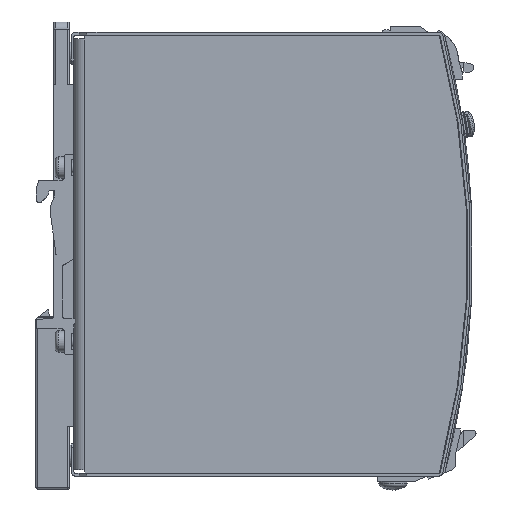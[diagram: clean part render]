
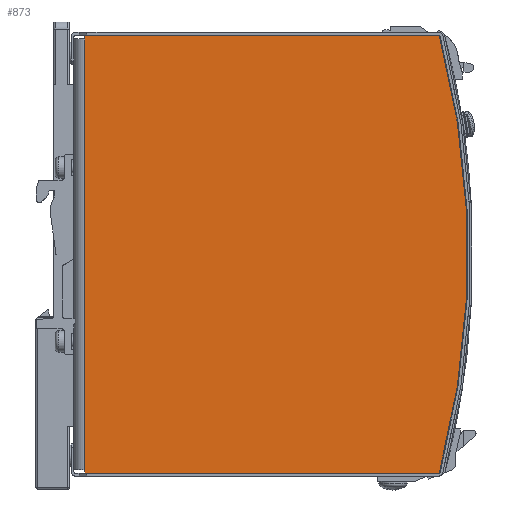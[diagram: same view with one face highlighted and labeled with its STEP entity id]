
A CAD part, front view. The second image highlights one B-rep face of the part: STEP entity #873.
In plain terms, the highlighted planar face has unit normal (0, -1, 0).
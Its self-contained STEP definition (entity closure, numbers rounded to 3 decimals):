
#303=CARTESIAN_POINT('',(102.079,-30.0,61.15));
#304=VERTEX_POINT('',#303);
#311=CARTESIAN_POINT('',(102.079,-30.0,-61.15));
#312=VERTEX_POINT('',#311);
#313=CARTESIAN_POINT('',(-130.0,-30.0,0.0));
#314=DIRECTION('',(0.0,-1.,0.0));
#315=DIRECTION('',(-0.967,0.0,0.255));
#316=AXIS2_PLACEMENT_3D('',#313,#314,#315);
#317=CIRCLE('',#316,240.);
#318=EDGE_CURVE('',#312,#304,#317,.T.);
#378=CARTESIAN_POINT('',(3.,-30.0,-60.15));
#379=VERTEX_POINT('',#378);
#491=CARTESIAN_POINT('',(3.,-30.0,-61.15));
#492=VERTEX_POINT('',#491);
#499=CARTESIAN_POINT('',(3.,-30.0,-61.15));
#500=DIRECTION('',(0.0,0.0,1.0));
#501=VECTOR('',#500,1.0);
#502=LINE('',#499,#501);
#503=EDGE_CURVE('',#492,#379,#502,.T.);
#514=CARTESIAN_POINT('',(3.,-30.0,60.15));
#515=VERTEX_POINT('',#514);
#630=CARTESIAN_POINT('',(3.,-30.0,61.15));
#631=VERTEX_POINT('',#630);
#632=CARTESIAN_POINT('',(3.,-30.0,60.15));
#633=DIRECTION('',(0.0,0.0,1.0));
#634=VECTOR('',#633,1.0);
#635=LINE('',#632,#634);
#636=EDGE_CURVE('',#515,#631,#635,.T.);
#711=CARTESIAN_POINT('',(3.,-30.0,-61.15));
#712=DIRECTION('',(1.0,0.0,0.0));
#713=VECTOR('',#712,99.079);
#714=LINE('',#711,#713);
#715=EDGE_CURVE('',#492,#312,#714,.T.);
#745=CARTESIAN_POINT('',(3.,-30.0,-60.15));
#746=DIRECTION('',(0.0,0.0,1.0));
#747=VECTOR('',#746,120.3);
#748=LINE('',#745,#747);
#749=EDGE_CURVE('',#379,#515,#748,.T.);
#769=CARTESIAN_POINT('',(102.079,-30.0,61.15));
#770=DIRECTION('',(-1.0,0.0,0.0));
#771=VECTOR('',#770,99.079);
#772=LINE('',#769,#771);
#773=EDGE_CURVE('',#304,#631,#772,.T.);
#860=CARTESIAN_POINT('',(120.0,-30.0,0.0));
#861=DIRECTION('',(0.0,-1.0,0.0));
#862=DIRECTION('',(0.0,0.0,-1.0));
#863=AXIS2_PLACEMENT_3D('',#860,#861,#862);
#864=PLANE('',#863);
#865=ORIENTED_EDGE('',*,*,#318,.T.);
#866=ORIENTED_EDGE('',*,*,#773,.T.);
#867=ORIENTED_EDGE('',*,*,#636,.F.);
#868=ORIENTED_EDGE('',*,*,#749,.F.);
#869=ORIENTED_EDGE('',*,*,#503,.F.);
#870=ORIENTED_EDGE('',*,*,#715,.T.);
#871=EDGE_LOOP('',(#865,#866,#867,#868,#869,#870));
#872=FACE_OUTER_BOUND('',#871,.T.);
#873=ADVANCED_FACE('',(#872),#864,.T.);
